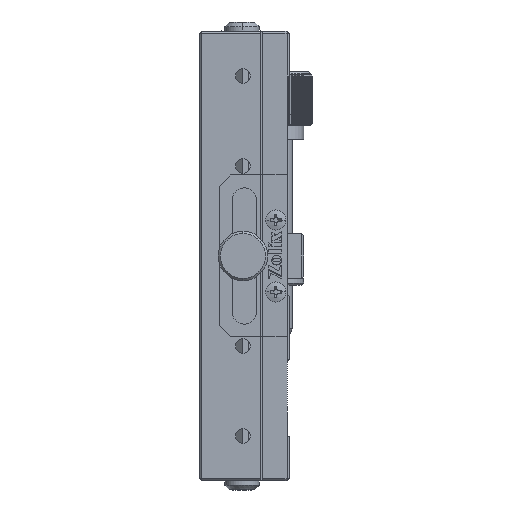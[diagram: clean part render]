
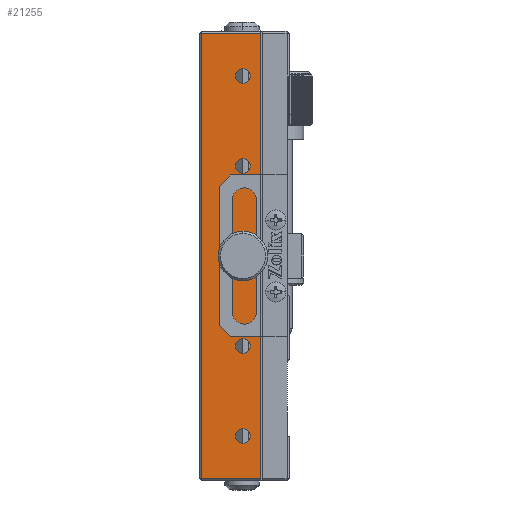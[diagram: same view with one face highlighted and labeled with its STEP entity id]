
A CAD part, left-side view. The second image highlights one B-rep face of the part: STEP entity #21255.
In plain terms, the highlighted planar face has unit normal (-1, 0, 0).
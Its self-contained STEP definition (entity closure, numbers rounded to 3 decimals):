
#90 = CARTESIAN_POINT ( 'NONE',  ( -49.938, -0.325, 92.5 ) ) ;
#401 = FACE_BOUND ( 'NONE', #38756, .T. ) ;
#724 = CARTESIAN_POINT ( 'NONE',  ( -49.938, -4.325, 162. ) ) ;
#758 = AXIS2_PLACEMENT_3D ( 'NONE', #25418, #4838, #28866 ) ;
#1314 = EDGE_CURVE ( 'NONE', #11436, #13784, #26873, .T. ) ;
#1835 = EDGE_CURVE ( 'NONE', #28277, #24693, #12858, .T. ) ;
#2264 = VERTEX_POINT ( 'NONE', #10170 ) ;
#2443 = DIRECTION ( 'NONE',  ( 0., 0., 1. ) ) ;
#2997 = DIRECTION ( 'NONE',  ( 0., 0., 1. ) ) ;
#3577 = EDGE_LOOP ( 'NONE', ( #37961, #31815 ) ) ;
#4323 = CARTESIAN_POINT ( 'NONE',  ( -49.938, -0.325, 112.5 ) ) ;
#4700 = DIRECTION ( 'NONE',  ( 0., 0., 1. ) ) ;
#4838 = DIRECTION ( 'NONE',  ( -1., 0., 0. ) ) ;
#4911 = VERTEX_POINT ( 'NONE', #13335 ) ;
#5028 = CIRCLE ( 'NONE', #758, 1.65 ) ;
#5408 = AXIS2_PLACEMENT_3D ( 'NONE', #36844, #16202, #2443 ) ;
#5714 = EDGE_CURVE ( 'NONE', #31758, #6084, #5028, .T. ) ;
#6047 = EDGE_CURVE ( 'NONE', #6084, #31758, #15703, .T. ) ;
#6084 = VERTEX_POINT ( 'NONE', #7482 ) ;
#6189 = DIRECTION ( 'NONE',  ( 0., 0., 1. ) ) ;
#6561 = EDGE_CURVE ( 'NONE', #37645, #16571, #25352, .T. ) ;
#6734 = CARTESIAN_POINT ( 'NONE',  ( -49.938, 8.875, 62.5 ) ) ;
#6792 = EDGE_LOOP ( 'NONE', ( #31832, #37728 ) ) ;
#6804 = ORIENTED_EDGE ( 'NONE', *, *, #1314, .T. ) ;
#7165 = DIRECTION ( 'NONE',  ( 0., 0., -1. ) ) ;
#7427 = CARTESIAN_POINT ( 'NONE',  ( -49.938, 8.875, 63. ) ) ;
#7482 = CARTESIAN_POINT ( 'NONE',  ( -49.938, -0.325, 74.15 ) ) ;
#7875 = DIRECTION ( 'NONE',  ( -1., 0., 0. ) ) ;
#8249 = EDGE_LOOP ( 'NONE', ( #38662, #39232, #6804, #38496 ) ) ;
#8383 = CARTESIAN_POINT ( 'NONE',  ( -49.938, -0.325, 110.4 ) ) ;
#9098 = CARTESIAN_POINT ( 'NONE',  ( -49.938, -4.325, 62.5 ) ) ;
#9567 = AXIS2_PLACEMENT_3D ( 'NONE', #24455, #27923, #10764 ) ;
#9838 = ORIENTED_EDGE ( 'NONE', *, *, #34526, .F. ) ;
#9901 = EDGE_CURVE ( 'NONE', #24693, #28277, #13245, .T. ) ;
#10170 = CARTESIAN_POINT ( 'NONE',  ( -49.938, -4.325, 63. ) ) ;
#10764 = DIRECTION ( 'NONE',  ( 0., 0., 1. ) ) ;
#11012 = CARTESIAN_POINT ( 'NONE',  ( -49.938, -0.325, 112.5 ) ) ;
#11258 = VECTOR ( 'NONE', #25378, 1000. ) ;
#11421 = CARTESIAN_POINT ( 'NONE',  ( -49.938, -0.325, 152.5 ) ) ;
#11436 = VERTEX_POINT ( 'NONE', #32905 ) ;
#12270 = DIRECTION ( 'NONE',  ( 0., 0., 1. ) ) ;
#12564 = CARTESIAN_POINT ( 'NONE',  ( -49.938, -0.325, 94.15 ) ) ;
#12858 = CIRCLE ( 'NONE', #42312, 1.65 ) ;
#13245 = CIRCLE ( 'NONE', #34813, 1.65 ) ;
#13335 = CARTESIAN_POINT ( 'NONE',  ( -49.938, -0.325, 154.15 ) ) ;
#13368 = CARTESIAN_POINT ( 'NONE',  ( -49.938, -0.325, 130.85 ) ) ;
#13784 = VERTEX_POINT ( 'NONE', #7427 ) ;
#14481 = DIRECTION ( 'NONE',  ( 0., 0., 1. ) ) ;
#14650 = DIRECTION ( 'NONE',  ( 0., 1., 0. ) ) ;
#14901 = EDGE_CURVE ( 'NONE', #38644, #27886, #24407, .T. ) ;
#15703 = CIRCLE ( 'NONE', #9567, 1.65 ) ;
#15860 = DIRECTION ( 'NONE',  ( -1., 0., 0. ) ) ;
#16202 = DIRECTION ( 'NONE',  ( -1., 0., 0. ) ) ;
#16571 = VERTEX_POINT ( 'NONE', #8383 ) ;
#17017 = DIRECTION ( 'NONE',  ( -1., 0., 0. ) ) ;
#18184 = CARTESIAN_POINT ( 'NONE',  ( -49.938, -0.325, 90.85 ) ) ;
#18359 = CARTESIAN_POINT ( 'NONE',  ( -49.938, -0.325, 70.85 ) ) ;
#18560 = CARTESIAN_POINT ( 'NONE',  ( -49.938, -0.325, 134.15 ) ) ;
#18714 = EDGE_CURVE ( 'NONE', #28068, #4911, #24149, .T. ) ;
#18739 = CARTESIAN_POINT ( 'NONE',  ( -49.938, -4.325, 63. ) ) ;
#18817 = LINE ( 'NONE', #18739, #11258 ) ;
#19333 = PLANE ( 'NONE',  #40044 ) ;
#19545 = EDGE_LOOP ( 'NONE', ( #20590, #24116 ) ) ;
#19862 = VECTOR ( 'NONE', #7165, 1000. ) ;
#20202 = DIRECTION ( 'NONE',  ( 0., 0., 1. ) ) ;
#20494 = VECTOR ( 'NONE', #14650, 1000. ) ;
#20590 = ORIENTED_EDGE ( 'NONE', *, *, #37669, .F. ) ;
#20657 = ORIENTED_EDGE ( 'NONE', *, *, #6561, .F. ) ;
#20832 = VERTEX_POINT ( 'NONE', #30212 ) ;
#21255 = ADVANCED_FACE ( 'NONE', ( #40702, #33719, #35302, #401, #42287, #26168 ), #19333, .T. ) ;
#21517 = DIRECTION ( 'NONE',  ( -1., 0., 0. ) ) ;
#23982 = CARTESIAN_POINT ( 'NONE',  ( -49.938, -4.325, 62.5 ) ) ;
#24075 = AXIS2_PLACEMENT_3D ( 'NONE', #11421, #24835, #4700 ) ;
#24116 = ORIENTED_EDGE ( 'NONE', *, *, #18714, .F. ) ;
#24149 = CIRCLE ( 'NONE', #24075, 1.65 ) ;
#24407 = CIRCLE ( 'NONE', #34622, 1.65 ) ;
#24455 = CARTESIAN_POINT ( 'NONE',  ( -49.938, -0.325, 72.5 ) ) ;
#24693 = VERTEX_POINT ( 'NONE', #18184 ) ;
#24835 = DIRECTION ( 'NONE',  ( -1., 0., 0. ) ) ;
#25352 = CIRCLE ( 'NONE', #44503, 2.1 ) ;
#25378 = DIRECTION ( 'NONE',  ( 0., -1., 0. ) ) ;
#25418 = CARTESIAN_POINT ( 'NONE',  ( -49.938, -0.325, 72.5 ) ) ;
#25586 = DIRECTION ( 'NONE',  ( 0., 0., 1. ) ) ;
#26168 = FACE_BOUND ( 'NONE', #3577, .T. ) ;
#26870 = CARTESIAN_POINT ( 'NONE',  ( -49.938, -0.325, 92.5 ) ) ;
#26873 = LINE ( 'NONE', #6734, #19862 ) ;
#27886 = VERTEX_POINT ( 'NONE', #13368 ) ;
#27923 = DIRECTION ( 'NONE',  ( -1., 0., 0. ) ) ;
#28068 = VERTEX_POINT ( 'NONE', #28214 ) ;
#28214 = CARTESIAN_POINT ( 'NONE',  ( -49.938, -0.325, 150.85 ) ) ;
#28277 = VERTEX_POINT ( 'NONE', #12564 ) ;
#28866 = DIRECTION ( 'NONE',  ( 0., 0., 1. ) ) ;
#29411 = AXIS2_PLACEMENT_3D ( 'NONE', #11012, #7875, #14481 ) ;
#30212 = CARTESIAN_POINT ( 'NONE',  ( -49.938, -4.325, 162. ) ) ;
#30524 = CARTESIAN_POINT ( 'NONE',  ( -49.938, -0.325, 152.5 ) ) ;
#30671 = DIRECTION ( 'NONE',  ( -1., 0., 0. ) ) ;
#30822 = CARTESIAN_POINT ( 'NONE',  ( -49.938, -0.325, 114.6 ) ) ;
#31758 = VERTEX_POINT ( 'NONE', #18359 ) ;
#31815 = ORIENTED_EDGE ( 'NONE', *, *, #39434, .F. ) ;
#31832 = ORIENTED_EDGE ( 'NONE', *, *, #1835, .F. ) ;
#32905 = CARTESIAN_POINT ( 'NONE',  ( -49.938, 8.875, 162. ) ) ;
#33030 = ORIENTED_EDGE ( 'NONE', *, *, #6047, .F. ) ;
#33483 = DIRECTION ( 'NONE',  ( -1., 0., 0. ) ) ;
#33719 = FACE_BOUND ( 'NONE', #35866, .T. ) ;
#33826 = CIRCLE ( 'NONE', #5408, 1.65 ) ;
#34526 = EDGE_CURVE ( 'NONE', #16571, #37645, #36372, .T. ) ;
#34622 = AXIS2_PLACEMENT_3D ( 'NONE', #35358, #21517, #25586 ) ;
#34633 = DIRECTION ( 'NONE',  ( 0., 0., 1. ) ) ;
#34638 = ORIENTED_EDGE ( 'NONE', *, *, #5714, .F. ) ;
#34813 = AXIS2_PLACEMENT_3D ( 'NONE', #26870, #33483, #2997 ) ;
#34829 = VECTOR ( 'NONE', #20202, 1000. ) ;
#35302 = FACE_BOUND ( 'NONE', #6792, .T. ) ;
#35358 = CARTESIAN_POINT ( 'NONE',  ( -49.938, -0.325, 132.5 ) ) ;
#35545 = DIRECTION ( 'NONE',  ( -1., 0., 0. ) ) ;
#35866 = EDGE_LOOP ( 'NONE', ( #20657, #9838 ) ) ;
#36372 = CIRCLE ( 'NONE', #29411, 2.1 ) ;
#36844 = CARTESIAN_POINT ( 'NONE',  ( -49.938, -0.325, 132.5 ) ) ;
#37645 = VERTEX_POINT ( 'NONE', #30822 ) ;
#37669 = EDGE_CURVE ( 'NONE', #4911, #28068, #43591, .T. ) ;
#37728 = ORIENTED_EDGE ( 'NONE', *, *, #9901, .F. ) ;
#37961 = ORIENTED_EDGE ( 'NONE', *, *, #14901, .F. ) ;
#38496 = ORIENTED_EDGE ( 'NONE', *, *, #42416, .T. ) ;
#38644 = VERTEX_POINT ( 'NONE', #18560 ) ;
#38662 = ORIENTED_EDGE ( 'NONE', *, *, #43810, .T. ) ;
#38756 = EDGE_LOOP ( 'NONE', ( #33030, #34638 ) ) ;
#39232 = ORIENTED_EDGE ( 'NONE', *, *, #41892, .T. ) ;
#39434 = EDGE_CURVE ( 'NONE', #27886, #38644, #33826, .T. ) ;
#39686 = LINE ( 'NONE', #23982, #34829 ) ;
#40044 = AXIS2_PLACEMENT_3D ( 'NONE', #9098, #15860, #12270 ) ;
#40481 = AXIS2_PLACEMENT_3D ( 'NONE', #30524, #30671, #6189 ) ;
#40702 = FACE_OUTER_BOUND ( 'NONE', #8249, .T. ) ;
#41470 = LINE ( 'NONE', #724, #20494 ) ;
#41892 = EDGE_CURVE ( 'NONE', #20832, #11436, #41470, .T. ) ;
#42287 = FACE_BOUND ( 'NONE', #19545, .T. ) ;
#42312 = AXIS2_PLACEMENT_3D ( 'NONE', #90, #17017, #34633 ) ;
#42416 = EDGE_CURVE ( 'NONE', #13784, #2264, #18817, .T. ) ;
#42592 = DIRECTION ( 'NONE',  ( 0., 0., 1. ) ) ;
#43591 = CIRCLE ( 'NONE', #40481, 1.65 ) ;
#43810 = EDGE_CURVE ( 'NONE', #2264, #20832, #39686, .T. ) ;
#44503 = AXIS2_PLACEMENT_3D ( 'NONE', #4323, #35545, #42592 ) ;
